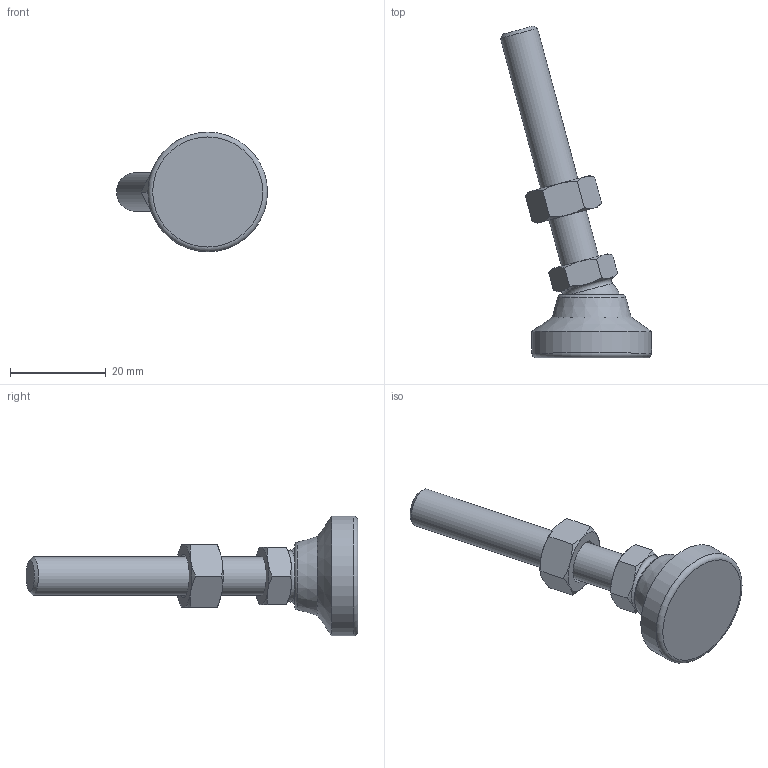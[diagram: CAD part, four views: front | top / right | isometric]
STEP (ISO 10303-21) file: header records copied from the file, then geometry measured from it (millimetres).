
FILE_DESCRIPTION( ( 'STEP AP214' ), ' ' );
FILE_NAME( 'O:/ganter_2015/teil_2/2_5/gn343_2/gn343_2_ks/Levelling foot with threaded stud GN 343.2-25-M8-50-KS-(15).stp', '2015-10-26T09:09:24', ( '' ), ( '' ), ' ', 'PARTsolutions', ' ' );
FILE_SCHEMA( ( 'AUTOMOTIVE_DESIGN { 1 0 10303 214 1 1 1 1 }' ) );
Length unit declared in the file: millimetre
Products named in the file (4): Levelling foot with threaded stud GN 343.2-25-M8-50-KS-(15); _Levelling foot with threaded stud GN 343.2-25-M8-50-KS-(15)_foot; _Gelenkfuss mit Schraube GN 343.2-25-M8-50-KS-(15)_screw; _GLevelling foot with threaded stud GN 343.2-25-M8-50-KS-(15)_nut
Assembly tree (3 placements, depth 2):
  Levelling foot with threaded stud GN 343.2-25-M8-50-KS-(15)
    _Levelling foot with threaded stud GN 343.2-25-M8-50-KS-(15)_foot
    _Gelenkfuss mit Schraube GN 343.2-25-M8-50-KS-(15)_screw
    _GLevelling foot with threaded stud GN 343.2-25-M8-50-KS-(15)_nut
Bounding box: 31.56 x 69.33 x 25 mm (x, y, z)
Volume: 8646.1 mm3; surface area: 4469.6 mm2
Topology: 3 solids, 3 shells, 50 faces, 107 edges, 63 vertices
Faces by surface type: cone 24, plane 18, torus 3, cylinder 3, sphere 2
Full cylindrical faces by diameter (mm): 6.647 x1, 8 x1, 25 x1
Entity records: 1858 total; most frequent: CARTESIAN_POINT 452, DIRECTION 188, ORIENTED_EDGE 176, AXIS2_PLACEMENT_3D 88, EDGE_CURVE 88, EDGE_LOOP 66, VERTEX_POINT 60, FACE_OUTER_BOUND 56
